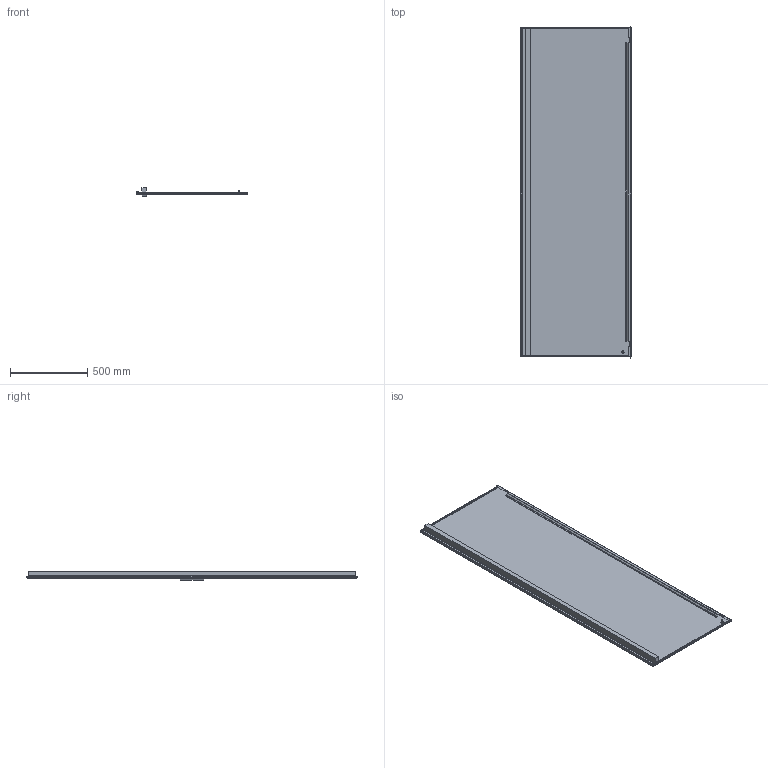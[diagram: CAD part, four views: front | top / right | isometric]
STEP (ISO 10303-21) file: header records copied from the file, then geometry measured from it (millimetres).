
FILE_DESCRIPTION (( 'STEP AP203' ), '1' );
FILE_NAME ('D 220.80 I Äâåðü òåëåêîììóíèêàöèîííàÿ.STEP', '2013-01-11T17:58:36', ( '' ), ( '' ), 'SwSTEP 2.0', 'SolidWorks 2012', '' );
FILE_SCHEMA (( 'CONFIG_CONTROL_DESIGN' ));
Length unit declared in the file: millimetre
Products named in the file (1): D 220.80 I Äâåðü òåëåêîììóíèêàöèîííàÿ
Bounding box: 718 x 2150.5 x 55 mm (x, y, z)
Volume: 5187012.7 mm3; surface area: 3599613.8 mm2
Topology: 3 solids, 3 shells, 175 faces, 406 edges, 226 vertices
Faces by surface type: cylinder 70, plane 65, sphere 24, cone 12, torus 4
Entity records: 4827 total; most frequent: DIRECTION 900, CARTESIAN_POINT 788, ORIENTED_EDGE 772, EDGE_CURVE 386, AXIS2_PLACEMENT_3D 338, VERTEX_POINT 226, VECTOR 224, LINE 224
